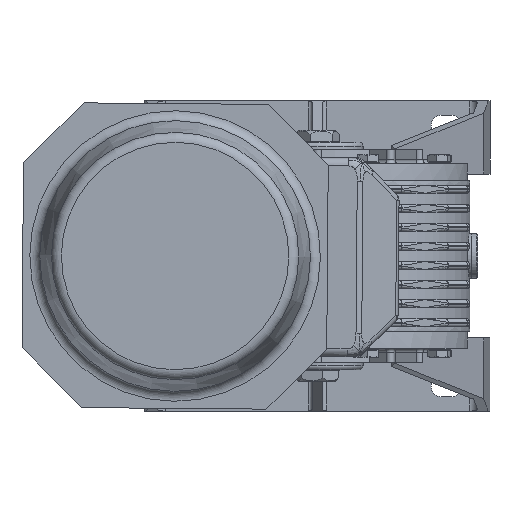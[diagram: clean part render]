
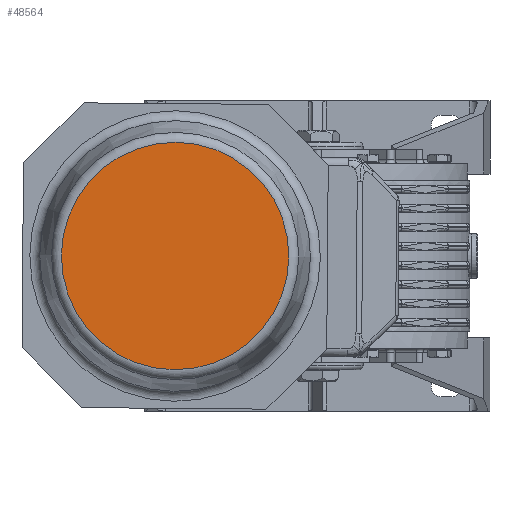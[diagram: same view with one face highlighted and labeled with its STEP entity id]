
A CAD part, left-side view. The second image highlights one B-rep face of the part: STEP entity #48564.
In plain terms, the highlighted planar face has unit normal (-1, 0, 0) as drawn and (1, 0, 0) by its records, which use the part's own axes.
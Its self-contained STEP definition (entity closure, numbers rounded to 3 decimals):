
#48541=CARTESIAN_POINT('',(265.0,0.0,55.983));
#48542=VERTEX_POINT('',#48541);
#48543=CARTESIAN_POINT('',(265.0,0.0,0.0));
#48544=DIRECTION('',(-1.0,0.0,0.0));
#48545=DIRECTION('',(0.0,0.0,-1.0));
#48546=AXIS2_PLACEMENT_3D('',#48543,#48544,#48545);
#48547=CIRCLE('',#48546,55.983);
#48548=EDGE_CURVE('',#48542,#48542,#48547,.T.);
#48556=CARTESIAN_POINT('',(265.0,0.0,30.0));
#48557=DIRECTION('',(1.0,0.0,0.0));
#48558=DIRECTION('',(0.0,0.0,-1.0));
#48559=AXIS2_PLACEMENT_3D('',#48556,#48557,#48558);
#48560=PLANE('',#48559);
#48561=ORIENTED_EDGE('',*,*,#48548,.F.);
#48562=EDGE_LOOP('',(#48561));
#48563=FACE_OUTER_BOUND('',#48562,.T.);
#48564=ADVANCED_FACE('',(#48563),#48560,.T.);
